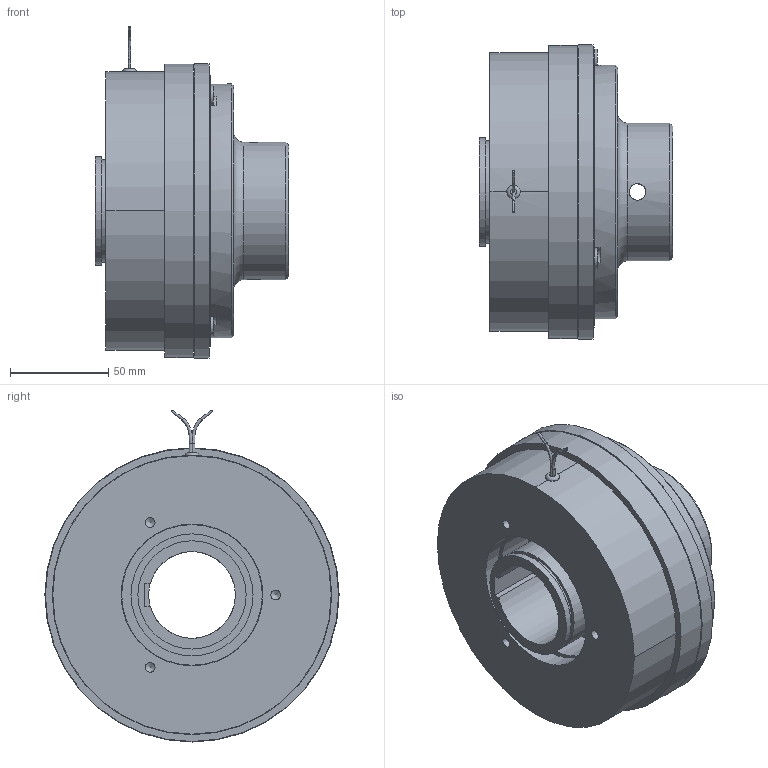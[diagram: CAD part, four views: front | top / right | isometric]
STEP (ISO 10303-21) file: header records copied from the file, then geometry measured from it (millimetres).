
FILE_DESCRIPTION(/* description */ (''),/* implementation_level */ '2;1');
FILE_NAME(/* name */ 'X:\INVENTOR\DISEGNI\08_Freni_Friz_Elettmag_Monodisco\08_26 EMSL_DF\EMSL_DF STEP\Tipo BM\08_26_150_22 EMSL150_DF-BM-ME@STEP.stp',/* time_stamp */ '2018-09-07T08:39:25+02:00',/* author */ ('stefano'),/* organization */ (''),/* preprocessor_version */ 'ST-DEVELOPER v17',/* originating_system */ 'Autodesk Inventor 2018',/* authorisation */ '');
FILE_SCHEMA (('AUTOMOTIVE_DESIGN { 1 0 10303 214 3 1 1 }'));
Length unit declared in the file: millimetre
Products named in the file (1): 08_26_150_22 EMSL150_DF-BM-ME_Substitute_1
Bounding box: 98.5 x 149.5 x 168.72 mm (x, y, z)
Volume: 842432.1 mm3; surface area: 172288.9 mm2
Topology: 4 solids, 4 shells, 292 faces, 801 edges, 561 vertices
Faces by surface type: cylinder 173, plane 88, cone 21, torus 8, bspline 2
Full cylindrical faces by diameter (mm): 1.154 x2, 1.5 x1, 2.2 x3, 4.917 x3, 6 x1, 6.1 x6, 6.647 x3, 7.5 x3, 8 x3, 8.1 x3, 8.376 x2, 10 x6, 11 x3, 13 x3, 52 x1, 55 x2, 62 x1, 70 x1, 71.5 x1, 72 x2, 75 x1, 95 x1, 129 x1, 132 x1, 142 x1, 149 x1, 149.5 x1
Entity records: 10453 total; most frequent: CARTESIAN_POINT 2039, DIRECTION 1842, ORIENTED_EDGE 1590, EDGE_CURVE 795, AXIS2_PLACEMENT_3D 792, VERTEX_POINT 562, CIRCLE 501, EDGE_LOOP 398
